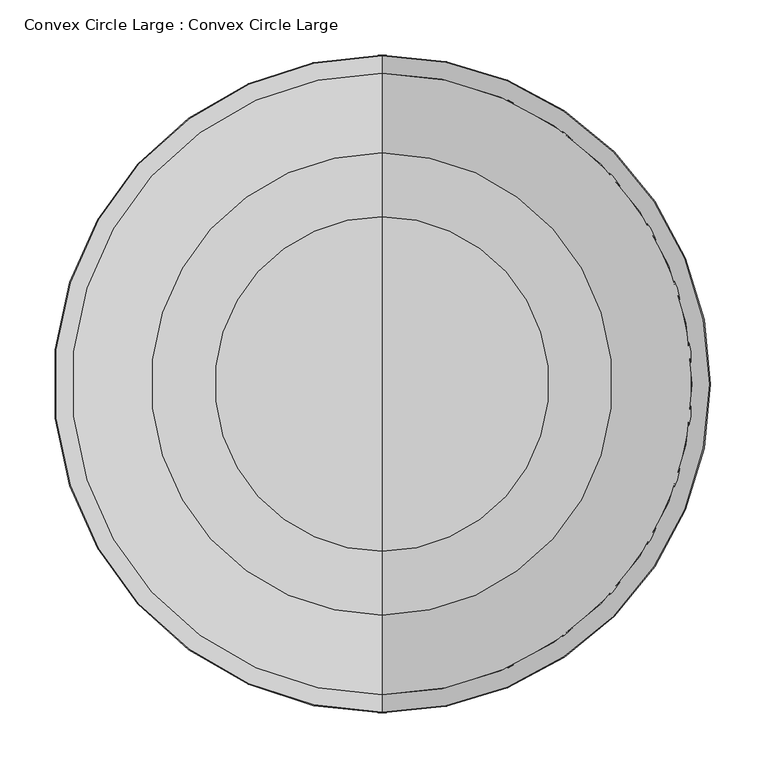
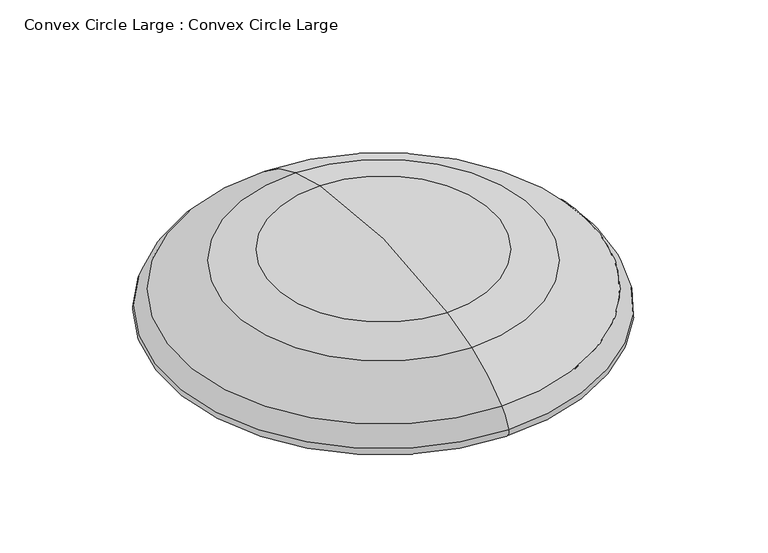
"""IFC4 building model written with IfcOpenShell, lengths in millimetres: furniture geometry, Convex Circle Large : Convex Circle Large."""

from ifc_helpers import new_model, si_unit, point, frame, origin, place, context, project, spatial, polyline, circle_curve, ellipse_curve, trimmed, source, transform, mapped, element, save
from ifc_brep_helpers import plane_surface, cylinder_surface, revolved_surface, advanced_brep


def convex_circle_large_convex_circle_large_e409688c(model_context):
    return source(origin(), model_context, "Body", "AdvancedBrep", [
        advanced_brep(
        [(0.0, -500.0, 0.0), (0.0, 50.0, 0.0), (0.0, 50.0, 12.0), (0.0, -500.0, 12.0), (0.0, -512.1750575, 0.0), (0.0, 62.1750575, 0.0), (0.0, -521.6107229, 13.2792975), (0.0, 71.6107229, 13.2792975), (0.0, -505.7912357, 37.5058375), (0.0, 55.7912357, 37.5058375), (0.0, -433.8674034, 78.5464804), (0.0, -16.1325966, 78.5464804), (0.0, -376.3886174, 94.7339914), (0.0, -73.6113826, 94.7339914), (0.0, -225.0, 110.0), (0.0, -225.0, 12.0)],
        [
            (0, 1, circle_curve(frame((0.0, -225.0, 0.0), z_axis=(0.0, 0.0, -1.0), x_axis=(0.0, 1.0, 0.0)), 275.0)),
            (1, 2),
            (2, 3, circle_curve(frame((0.0, -225.0, 12.0), z_axis=(0.0, 0.0, 1.0), x_axis=(0.0, 1.0, 0.0)), 275.0)),
            (3, 0),
            (1, 0, circle_curve(frame((0.0, -225.0, 0.0), z_axis=(0.0, 0.0, -1.0), x_axis=(0.0, 1.0, 0.0)), 275.0)),
            (3, 2, circle_curve(frame((0.0, -225.0, 12.0), z_axis=(0.0, 0.0, 1.0), x_axis=(0.0, 1.0, 0.0)), 275.0)),
            (4, 5, circle_curve(frame((0.0, -225.0, 0.0), z_axis=(0.0, 0.0, -1.0), x_axis=(0.0, 1.0, 0.0)), 287.1750575)),
            (5, 1),
            (0, 4),
            (5, 4, circle_curve(frame((0.0, -225.0, 0.0), z_axis=(0.0, 0.0, -1.0), x_axis=(0.0, 1.0, 0.0)), 287.1750575)),
            (6, 7, circle_curve(frame((0.0, -225.0, 13.2792975), z_axis=(0.0, 0.0, -1.0), x_axis=(0.0, 1.0, 0.0)), 296.6107229)),
            (7, 5, circle_curve(frame((0.0, 62.1236588, 10.0284478), z_axis=(-1.0, 0.0, 0.0), x_axis=(0.0, -1.0, 0.0)), 10.0285795)),
            (4, 6, circle_curve(frame((0.0, -512.1236588, 10.0284478), z_axis=(-1.0, 0.0, 0.0), x_axis=(0.0, 1.0, 0.0)), 10.0285795)),
            (7, 6, circle_curve(frame((0.0, -225.0, 13.2792975), z_axis=(0.0, 0.0, -1.0), x_axis=(0.0, 1.0, 0.0)), 296.6107229)),
            (8, 9, circle_curve(frame((0.0, -225.0, 37.5058375), z_axis=(0.0, 0.0, -1.0), x_axis=(0.0, 1.0, 0.0)), 280.7912357)),
            (9, 7, circle_curve(frame((0.0, 13.0770006, -7.6639639), z_axis=(-1.0, 0.0, 0.0), x_axis=(0.0, -1.0, 0.0)), 62.167651)),
            (6, 8, circle_curve(frame((0.0, -463.0770006, -7.6639639), z_axis=(-1.0, 0.0, 0.0), x_axis=(0.0, 1.0, 0.0)), 62.167651)),
            (9, 8, circle_curve(frame((0.0, -225.0, 37.5058375), z_axis=(0.0, 0.0, -1.0), x_axis=(0.0, 1.0, 0.0)), 280.7912357)),
            (10, 11, circle_curve(frame((0.0, -225.0, 78.5464804), z_axis=(0.0, 0.0, -1.0), x_axis=(0.0, 1.0, 0.0)), 208.8674034)),
            (11, 9, circle_curve(frame((0.0, -84.7605166, -125.2677981), z_axis=(-1.0, 0.0, 0.0), x_axis=(0.0, -1.0, 0.0)), 215.0582515)),
            (8, 10, circle_curve(frame((0.0, -365.2394834, -125.2677981), z_axis=(-1.0, 0.0, 0.0), x_axis=(0.0, 1.0, 0.0)), 215.0582515)),
            (11, 10, circle_curve(frame((0.0, -225.0, 78.5464804), z_axis=(0.0, 0.0, -1.0), x_axis=(0.0, 1.0, 0.0)), 208.8674034)),
            (12, 13, circle_curve(frame((0.0, -225.0, 94.7339914), z_axis=(0.0, 0.0, -1.0), x_axis=(0.0, 1.0, 0.0)), 151.3886174)),
            (13, 11, circle_curve(frame((0.0, -190.2727811, -429.65044), z_axis=(-1.0, 0.0, 0.0), x_axis=(0.0, -1.0, 0.0)), 537.2047224)),
            (10, 12, circle_curve(frame((0.0, -259.7272189, -429.65044), z_axis=(-1.0, 0.0, 0.0), x_axis=(0.0, 1.0, 0.0)), 537.2047224)),
            (13, 12, circle_curve(frame((0.0, -225.0, 94.7339914), z_axis=(0.0, 0.0, -1.0), x_axis=(0.0, 1.0, 0.0)), 151.3886174)),
            (14, 13, circle_curve(frame((0.0, -224.6861687, -645.159521), z_axis=(-1.0, 0.0, 0.0), x_axis=(0.0, -1.0, 0.0)), 755.1595862)),
            (12, 14, circle_curve(frame((0.0, -225.3138313, -645.159521), z_axis=(-1.0, 0.0, 0.0), x_axis=(0.0, 1.0, 0.0)), 755.1595862)),
            (2, 15),
            (15, 3),
        ],
        [
            revolved_surface(polyline([(0.0, 50.0, 12.0), (0.0, 50.0, 0.0)]), (0.0, -225.0, 0.0), (0.0, 0.0, 1.0)),
            plane_surface(frame((0.0, -225.0, 0.0), z_axis=(0.0, 0.0, -1.0), x_axis=(0.0, 1.0, 0.0))),
            revolved_surface(trimmed(ellipse_curve(frame((0.0, 62.1236588, 10.0284478), z_axis=(1.0, 0.0, 0.0), x_axis=(0.0, -1.0, 0.0)), 10.0285795, 10.0285795), [point((0.0, 62.1750575, 0.0))], [point((0.0, 71.6107229, 13.2792975))], True, "CARTESIAN"), (0.0, -225.0, 0.0), (0.0, 0.0, 1.0)),
            revolved_surface(trimmed(ellipse_curve(frame((0.0, 13.0770006, -7.6639639), z_axis=(1.0, 0.0, 0.0), x_axis=(0.0, -1.0, 0.0)), 62.167651, 62.167651), [point((0.0, 71.6107229, 13.2792975))], [point((0.0, 55.7912357, 37.5058375))], True, "CARTESIAN"), (0.0, -225.0, 0.0), (0.0, 0.0, 1.0)),
            revolved_surface(trimmed(ellipse_curve(frame((0.0, -84.7605166, -125.2677981), z_axis=(1.0, 0.0, 0.0), x_axis=(0.0, -1.0, 0.0)), 215.0582515, 215.0582515), [point((0.0, 55.7912357, 37.5058375))], [point((0.0, -16.1325966, 78.5464804))], True, "CARTESIAN"), (0.0, -225.0, 0.0), (0.0, 0.0, 1.0)),
            revolved_surface(trimmed(ellipse_curve(frame((0.0, -190.2727811, -429.65044), z_axis=(1.0, 0.0, 0.0), x_axis=(0.0, -1.0, 0.0)), 537.2047224, 537.2047224), [point((0.0, -16.1325966, 78.5464804))], [point((0.0, -73.6113826, 94.7339914))], True, "CARTESIAN"), (0.0, -225.0, 0.0), (0.0, 0.0, 1.0)),
            revolved_surface(trimmed(ellipse_curve(frame((0.0, -224.6861687, -645.159521), z_axis=(1.0, 0.0, 0.0), x_axis=(0.0, -1.0, 0.0)), 755.1595862, 755.1595862), [point((0.0, -73.6113826, 94.7339914))], [point((0.0, -225.0, 110.0))], True, "CARTESIAN"), (0.0, -225.0, 0.0), (0.0, 0.0, 1.0)),
            plane_surface(frame((0.0, -225.0, 12.0), z_axis=(0.0, 0.0, -1.0), x_axis=(0.0, 1.0, 0.0))),
        ],
        [
            (0, [[1, 2, 3, 4]]),
            (0, [[5, -4, 6, -2]]),
            (1, [[7, 8, -1, 9]]),
            (1, [[10, -9, -5, -8]]),
            (2, [[11, 12, -7, 13]]),
            (2, [[14, -13, -10, -12]]),
            (3, [[15, 16, -11, 17]]),
            (3, [[18, -17, -14, -16]]),
            (4, [[19, 20, -15, 21]]),
            (4, [[22, -21, -18, -20]]),
            (5, [[23, 24, -19, 25]]),
            (5, [[26, -25, -22, -24]]),
            (6, [[27, -23, 28]]),
            (6, [[-28, -26, -27]]),
            (7, [[-3, 29, 30]]),
            (7, [[-6, -30, -29]]),
        ],
    ),
        advanced_brep(
        [(-275.0, -225.0, 0.0), (-275.0, -225.0, 12.0), (275.0, -225.0, 12.0), (275.0, -225.0, 0.0), (2.9999954, -10.1408866, 0.0), (-3.0000046, -10.1408866, 0.0), (-3.0000046, -10.1408866, 8.0), (2.9999954, -10.1408866, 8.0), (-3.0000046, 0.0050114, 0.0), (-3.0000046, 0.0050114, 8.0), (2.9999954, 0.0050114, 0.0), (2.9999954, 0.0050114, 8.0)],
        [
            (0, 1),
            (1, 2, circle_curve(frame((0.0, -225.0, 12.0), z_axis=(0.0, 0.0, -1.0), x_axis=(-1.0, 0.0, 0.0)), 275.0)),
            (2, 3),
            (3, 0, circle_curve(frame((0.0, -225.0, 0.0), z_axis=(0.0, 0.0, 1.0), x_axis=(-1.0, 0.0, 0.0)), 275.0)),
            (4, 5, circle_curve(frame((-4.6e-06, -13.4949886, 0.0), z_axis=(0.0, 0.0, -1.0), x_axis=(-0.6666666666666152, 0.7453559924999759, 0.0)), 4.5)),
            (5, 6),
            (6, 7, circle_curve(frame((-4.6e-06, -13.4949886, 8.0), z_axis=(0.0, 0.0, 1.0), x_axis=(-0.6666666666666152, 0.7453559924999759, 0.0)), 4.5)),
            (7, 4),
            (5, 8),
            (8, 9),
            (9, 6),
            (8, 10, circle_curve(frame((-4.6e-06, 0.0050114, 0.0), z_axis=(0.0, 0.0, -1.0), x_axis=(1.0, 0.0, 0.0)), 3.0)),
            (10, 11),
            (11, 9, circle_curve(frame((-4.6e-06, 0.0050114, 8.0), z_axis=(0.0, 0.0, 1.0), x_axis=(1.0, 0.0, 0.0)), 3.0)),
            (10, 4),
            (7, 11),
            (0, 3, circle_curve(frame((0.0, -225.0, 0.0), z_axis=(0.0, 0.0, 1.0), x_axis=(-1.0, 0.0, 0.0)), 275.0)),
            (2, 1, circle_curve(frame((0.0, -225.0, 12.0), z_axis=(0.0, 0.0, -1.0), x_axis=(-1.0, 0.0, 0.0)), 275.0)),
        ],
        [
            cylinder_surface(frame((0.0, -225.0, 0.0), z_axis=(0.0, 0.0, 1.0), x_axis=(-1.0, 0.0, 0.0)), 275.0),
            revolved_surface(polyline([(-3.0000045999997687, -10.140886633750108, 8.0), (-3.0000045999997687, -10.140886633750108, 0.0)]), (-4.6e-06, -13.4949886, 0.0), (0.0, 0.0, 1.0)),
            plane_surface(frame((-3.0000046, 0.0050114, 0.0), z_axis=(1.0, 0.0, 0.0), x_axis=(0.0, -1.0, 0.0))),
            revolved_surface(polyline([(2.9999954, 0.0050114, 8.0), (2.9999954, 0.0050114, 0.0)]), (-4.6e-06, 0.0050114, 0.0), (0.0, 0.0, 1.0)),
            plane_surface(frame((2.9999954, -10.1408866, 0.0), z_axis=(-1.0, 0.0, 0.0), x_axis=(0.0, 1.0, 0.0))),
            plane_surface(frame((-4.6e-06, -7.5446403, 8.0), z_axis=(0.0, 0.0, -1.0), x_axis=(0.0, 1.0, 0.0))),
            plane_surface(frame((0.0, -225.0, 12.0), z_axis=(0.0, 0.0, 1.0), x_axis=(0.0, 1.0, 0.0))),
            plane_surface(frame((0.0, -225.0, 0.0), z_axis=(0.0, 0.0, -1.0), x_axis=(0.0, 1.0, 0.0))),
        ],
        [
            (0, [[1, 2, 3, 4]]),
            (1, [[5, 6, 7, 8]]),
            (2, [[9, 10, 11, -6]]),
            (3, [[12, 13, 14, -10]]),
            (4, [[15, -8, 16, -13]]),
            (5, [[-16, -7, -11, -14]]),
            (0, [[-1, 17, -3, 18]]),
            (6, [[-2, -18]]),
            (7, [[-4, -17], [-5, -15, -12, -9]]),
        ],
    ),
    ])


if __name__ == "__main__":
    model = new_model("IFC4")
    model_context = context("Model", 3, world=origin())
    ifc_project = project(units=[si_unit("LENGTHUNIT", "METRE", prefix="MILLI")], contexts=[model_context])
    site = spatial("IfcSite", under=ifc_project)
    building = spatial("IfcBuilding", under=site)
    placement = place(None, origin())
    convex_circle_large_convex_circle_large_shape = convex_circle_large_convex_circle_large_e409688c(model_context)
    element("IfcFurniture", 1, ObjectType="Convex Circle Large : Convex Circle Large", at=placement, inside=building, context=model_context, shape_type="MappedRepresentation", body=[
        mapped(convex_circle_large_convex_circle_large_shape, transform((0.0, 0.0, 0.0), x_axis=(1.0, 0.0, 0.0), y_axis=(0.0, 1.0, 0.0), z_axis=(0.0, 0.0, 1.0))),
    ])
    save(model, "model.ifc")
